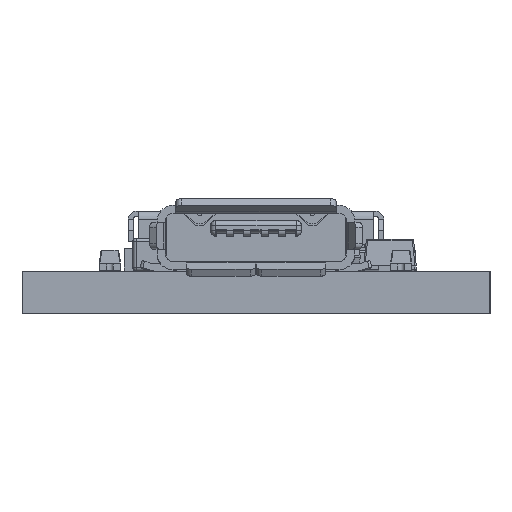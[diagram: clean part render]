
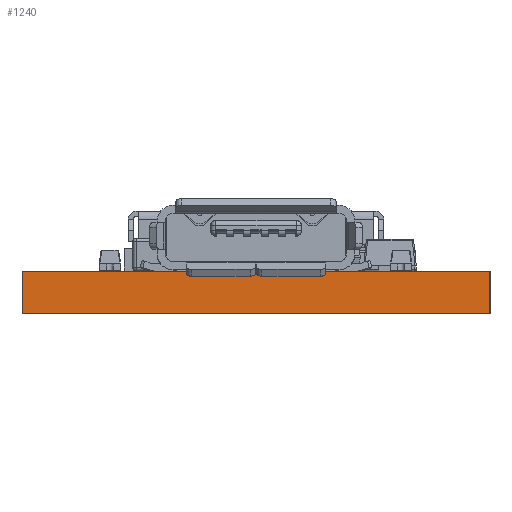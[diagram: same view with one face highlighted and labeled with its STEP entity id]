
A CAD part, left-side view. The second image highlights one B-rep face of the part: STEP entity #1240.
In plain terms, the highlighted planar face has unit normal (-1, 0, 0).
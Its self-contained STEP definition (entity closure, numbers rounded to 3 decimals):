
#1213 = EDGE_CURVE('',#1214,#1216,#1218,.T.);
#1214 = VERTEX_POINT('',#1215);
#1215 = CARTESIAN_POINT('',(0.,17.78,0.));
#1216 = VERTEX_POINT('',#1217);
#1217 = CARTESIAN_POINT('',(0.,17.78,1.606));
#1218 = LINE('',#1219,#1220);
#1219 = CARTESIAN_POINT('',(0.,17.78,0.));
#1220 = VECTOR('',#1221,1.);
#1221 = DIRECTION('',(0.,0.,1.));
#1240 = ADVANCED_FACE('',(#1241),#1266,.T.);
#1241 = FACE_BOUND('',#1242,.T.);
#1242 = EDGE_LOOP('',(#1243,#1253,#1259,#1260));
#1243 = ORIENTED_EDGE('',*,*,#1244,.T.);
#1244 = EDGE_CURVE('',#1245,#1247,#1249,.T.);
#1245 = VERTEX_POINT('',#1246);
#1246 = CARTESIAN_POINT('',(0.,0.,0.));
#1247 = VERTEX_POINT('',#1248);
#1248 = CARTESIAN_POINT('',(0.,0.,1.606));
#1249 = LINE('',#1250,#1251);
#1250 = CARTESIAN_POINT('',(0.,0.,0.));
#1251 = VECTOR('',#1252,1.);
#1252 = DIRECTION('',(0.,0.,1.));
#1253 = ORIENTED_EDGE('',*,*,#1254,.T.);
#1254 = EDGE_CURVE('',#1247,#1216,#1255,.T.);
#1255 = LINE('',#1256,#1257);
#1256 = CARTESIAN_POINT('',(0.,0.,1.606));
#1257 = VECTOR('',#1258,1.);
#1258 = DIRECTION('',(0.,1.,0.));
#1259 = ORIENTED_EDGE('',*,*,#1213,.F.);
#1260 = ORIENTED_EDGE('',*,*,#1261,.F.);
#1261 = EDGE_CURVE('',#1245,#1214,#1262,.T.);
#1262 = LINE('',#1263,#1264);
#1263 = CARTESIAN_POINT('',(0.,0.,0.));
#1264 = VECTOR('',#1265,1.);
#1265 = DIRECTION('',(0.,1.,0.));
#1266 = PLANE('',#1267);
#1267 = AXIS2_PLACEMENT_3D('',#1268,#1269,#1270);
#1268 = CARTESIAN_POINT('',(0.,0.,0.));
#1269 = DIRECTION('',(-1.,0.,0.));
#1270 = DIRECTION('',(0.,1.,0.));
